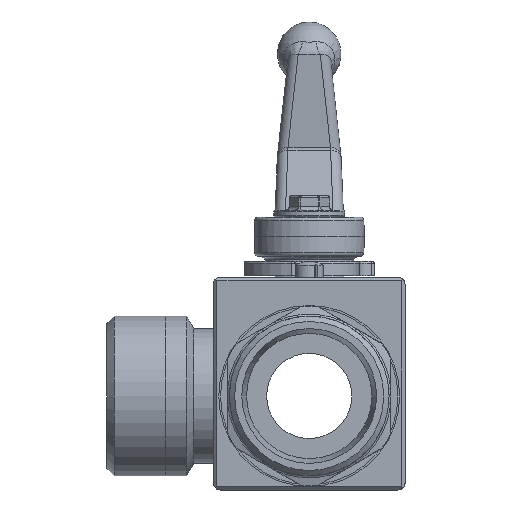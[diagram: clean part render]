
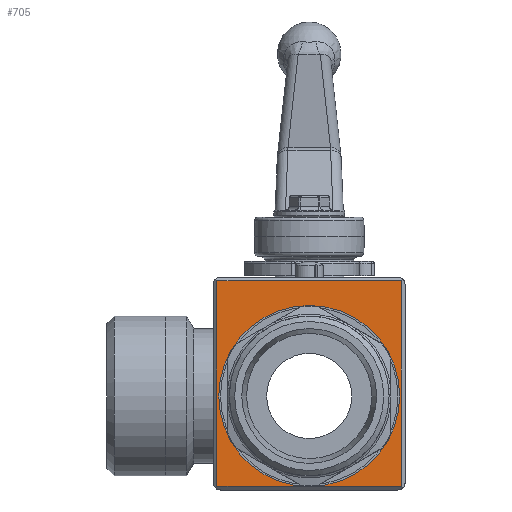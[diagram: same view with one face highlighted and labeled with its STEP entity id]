
A CAD part, front view. The second image highlights one B-rep face of the part: STEP entity #705.
In plain terms, the highlighted planar face has unit normal (0, -1, 0).
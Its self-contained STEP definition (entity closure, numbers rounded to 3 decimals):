
#705 = ADVANCED_FACE( '', ( #1659 ), #1660, .T. );
#1659 = FACE_OUTER_BOUND( '', #3042, .T. );
#1660 = PLANE( '', #3043 );
#3042 = EDGE_LOOP( '', ( #5782, #5783, #5784, #5785, #5786, #5787 ) );
#3043 = AXIS2_PLACEMENT_3D( '', #5788, #5789, #5790 );
#5782 = ORIENTED_EDGE( '', *, *, #9048, .T. );
#5783 = ORIENTED_EDGE( '', *, *, #9049, .T. );
#5784 = ORIENTED_EDGE( '', *, *, #9050, .F. );
#5785 = ORIENTED_EDGE( '', *, *, #9051, .T. );
#5786 = ORIENTED_EDGE( '', *, *, #9052, .T. );
#5787 = ORIENTED_EDGE( '', *, *, #9053, .T. );
#5788 = CARTESIAN_POINT( '', ( -27., -33.1, -26.5 ) );
#5789 = DIRECTION( '', ( 0., -1., 0. ) );
#5790 = DIRECTION( '', ( 0., 0., -1. ) );
#9048 = EDGE_CURVE( '', #10551, #10552, #10553, .T. );
#9049 = EDGE_CURVE( '', #10552, #10554, #10555, .T. );
#9050 = EDGE_CURVE( '', #10554, #10554, #10556, .T. );
#9051 = EDGE_CURVE( '', #10554, #10557, #10558, .T. );
#9052 = EDGE_CURVE( '', #10557, #10559, #10560, .T. );
#9053 = EDGE_CURVE( '', #10559, #10551, #10561, .T. );
#10551 = VERTEX_POINT( '', #12827 );
#10552 = VERTEX_POINT( '', #12828 );
#10553 = LINE( '', #12829, #12830 );
#10554 = VERTEX_POINT( '', #12831 );
#10555 = LINE( '', #12832, #12833 );
#10556 = CIRCLE( '', #12834, 25.5 );
#10557 = VERTEX_POINT( '', #12835 );
#10558 = LINE( '', #12836, #12837 );
#10559 = VERTEX_POINT( '', #12838 );
#10560 = LINE( '', #12839, #12840 );
#10561 = LINE( '', #12841, #12842 );
#12827 = CARTESIAN_POINT( '', ( -26., -33.1, 32.5 ) );
#12828 = CARTESIAN_POINT( '', ( -26., -33.1, -25.5 ) );
#12829 = CARTESIAN_POINT( '', ( -26., -33.1, -26.5 ) );
#12830 = VECTOR( '', #16186, 1000. );
#12831 = CARTESIAN_POINT( '', ( 0., -33.1, -25.5 ) );
#12832 = CARTESIAN_POINT( '', ( 27., -33.1, -25.5 ) );
#12833 = VECTOR( '', #16187, 1000. );
#12834 = AXIS2_PLACEMENT_3D( '', #16188, #16189, #16190 );
#12835 = CARTESIAN_POINT( '', ( 26., -33.1, -25.5 ) );
#12836 = CARTESIAN_POINT( '', ( 27., -33.1, -25.5 ) );
#12837 = VECTOR( '', #16191, 1000. );
#12838 = CARTESIAN_POINT( '', ( 26., -33.1, 32.5 ) );
#12839 = CARTESIAN_POINT( '', ( 26., -33.1, 33.5 ) );
#12840 = VECTOR( '', #16192, 1000. );
#12841 = CARTESIAN_POINT( '', ( -27., -33.1, 32.5 ) );
#12842 = VECTOR( '', #16193, 1000. );
#16186 = DIRECTION( '', ( 0., 0., -1. ) );
#16187 = DIRECTION( '', ( 1., 0., 0. ) );
#16188 = CARTESIAN_POINT( '', ( 0., -33.1, 0. ) );
#16189 = DIRECTION( '', ( 0., -1., 0. ) );
#16190 = DIRECTION( '', ( 1., 0., 0. ) );
#16191 = DIRECTION( '', ( 1., 0., 0. ) );
#16192 = DIRECTION( '', ( 0., 0., 1. ) );
#16193 = DIRECTION( '', ( -1., 0., 0. ) );
